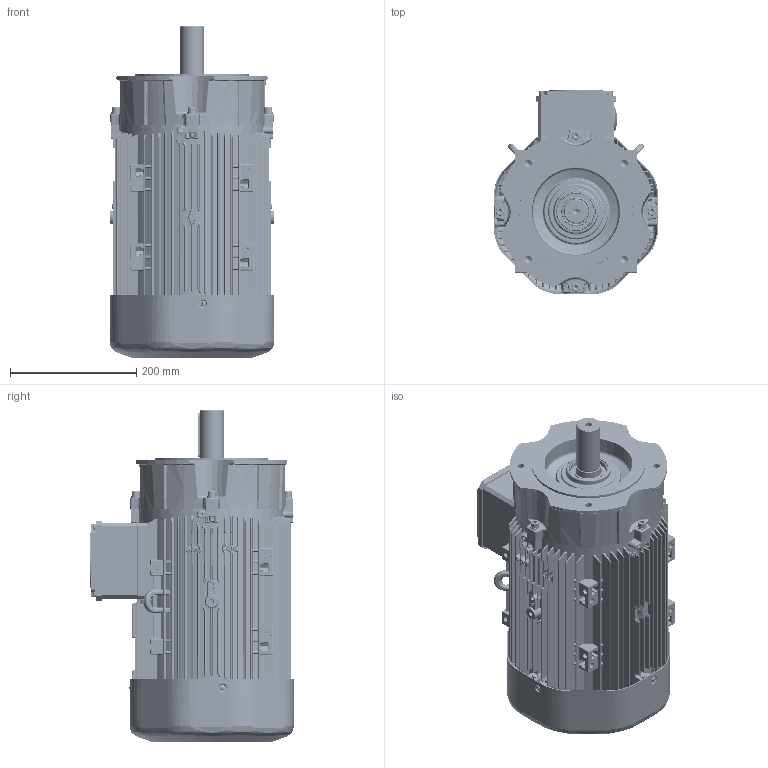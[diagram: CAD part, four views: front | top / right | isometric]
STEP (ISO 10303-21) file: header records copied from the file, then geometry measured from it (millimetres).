
FILE_DESCRIPTION(/* description */ (''),/* implementation_level */ '2;1');
FILE_NAME(/* name */ 'OUTLOOK VIEW QH132 FC B14 - BIGGER FT215 SPL.stp',/* time_stamp */ '2021-09-21T15:13:35+03:00',/* author */ (''),/* organization */ (''),/* preprocessor_version */ 'ST-DEVELOPER v16',/* originating_system */ 'SIEMENS PLM Software NX 11.0',/* authorisation */ '');
FILE_SCHEMA (('AUTOMOTIVE_DESIGN { 1 0 10303 214 3 1 1 1 }'));
Products named in the file (1): 260652D491E0rxgy
Bounding box: 260.12 x 322.81 x 526.5 mm (x, y, z)
Volume: 4457894.5 mm3; surface area: 1782997.1 mm2
Topology: 65 solids, 67 shells, 13438 faces, 31568 edges, 17552 vertices
Faces by surface type: cylinder 4391, bspline 3812, plane 2691, sphere 1222, torus 803, cone 484, extrusion 35
Full cylindrical faces by diameter (mm): 2.5 x2, 3.5 x2, 4 x4, 4.2 x8, 5.5 x8, 5.6 x1, 6.8 x1, 8 x20, 8.028 x3, 8.477 x2, 8.478 x1, 8.5 x8, 9 x4, 10.3 x4, 10.5 x1, 13 x8, 15 x2, 30.4 x2, 34.4 x1, 35 x1, 37.4 x1, 37.5 x1, 38 x1, 39.4 x2, 40 x5, 40.2 x1, 40.5 x1, 42.94 x1, 44 x2, 46.5 x1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
Entity records: 441592 total; most frequent: CARTESIAN_POINT 159157, ORIENTED_EDGE 59872, DIRECTION 56903, EDGE_CURVE 29936, AXIS2_PLACEMENT_3D 23335, VERTEX_POINT 17331, EDGE_LOOP 14641, ADVANCED_FACE 13437
